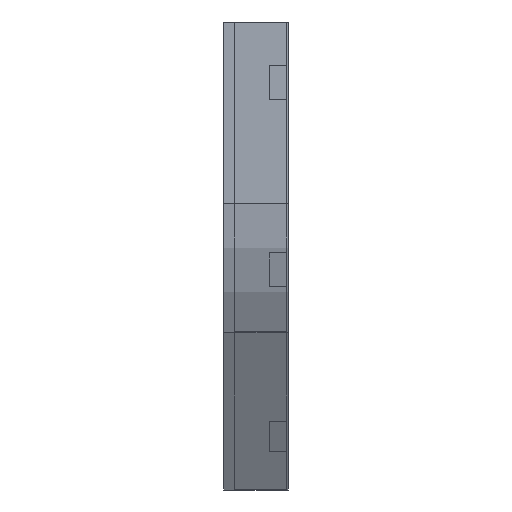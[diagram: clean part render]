
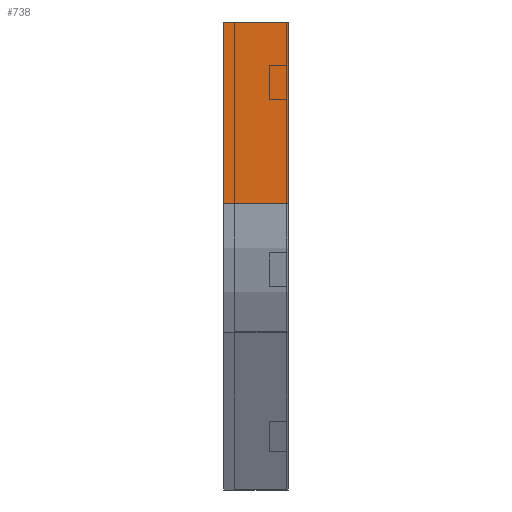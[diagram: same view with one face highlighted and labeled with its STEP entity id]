
A CAD part, left-side view. The second image highlights one B-rep face of the part: STEP entity #738.
In plain terms, the highlighted planar face has unit normal (-1, 0, 0).
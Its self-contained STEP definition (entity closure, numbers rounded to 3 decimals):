
#78 = CARTESIAN_POINT ( 'NONE',  ( 0., 0., -210.77 ) ) ;
#87 = DIRECTION ( 'NONE',  ( 0., -1., 0. ) ) ;
#88 = FACE_OUTER_BOUND ( 'NONE', #979, .T. ) ;
#222 = CARTESIAN_POINT ( 'NONE',  ( 0., 0., 0. ) ) ;
#264 = EDGE_CURVE ( 'NONE', #862, #1779, #1797, .T. ) ;
#320 = VECTOR ( 'NONE', #1637, 1000. ) ;
#364 = ORIENTED_EDGE ( 'NONE', *, *, #1297, .T. ) ;
#432 = VECTOR ( 'NONE', #1754, 1000. ) ;
#550 = VECTOR ( 'NONE', #1620, 1000. ) ;
#564 = ORIENTED_EDGE ( 'NONE', *, *, #264, .F. ) ;
#594 = EDGE_CURVE ( 'NONE', #862, #665, #1130, .T. ) ;
#652 = CARTESIAN_POINT ( 'NONE',  ( 0., 0., 0. ) ) ;
#665 = VERTEX_POINT ( 'NONE', #1646 ) ;
#706 = CARTESIAN_POINT ( 'NONE',  ( 0., 75., 0. ) ) ;
#738 = ADVANCED_FACE ( 'NONE', ( #88 ), #801, .F. ) ;
#800 = CARTESIAN_POINT ( 'NONE',  ( 0., 0., -210.77 ) ) ;
#801 = PLANE ( 'NONE',  #1308 ) ;
#839 = DIRECTION ( 'NONE',  ( 1., 0., 0. ) ) ;
#862 = VERTEX_POINT ( 'NONE', #1757 ) ;
#864 = VECTOR ( 'NONE', #87, 1000. ) ;
#979 = EDGE_LOOP ( 'NONE', ( #1312, #564, #1721, #364 ) ) ;
#1060 = LINE ( 'NONE', #222, #320 ) ;
#1130 = LINE ( 'NONE', #706, #432 ) ;
#1294 = EDGE_CURVE ( 'NONE', #1779, #1321, #1060, .T. ) ;
#1297 = EDGE_CURVE ( 'NONE', #665, #1321, #1805, .T. ) ;
#1308 = AXIS2_PLACEMENT_3D ( 'NONE', #652, #839, #1558 ) ;
#1312 = ORIENTED_EDGE ( 'NONE', *, *, #1294, .F. ) ;
#1321 = VERTEX_POINT ( 'NONE', #78 ) ;
#1558 = DIRECTION ( 'NONE',  ( 0., 0., -1. ) ) ;
#1620 = DIRECTION ( 'NONE',  ( 0., -1., 0. ) ) ;
#1637 = DIRECTION ( 'NONE',  ( 0., 0., -1. ) ) ;
#1646 = CARTESIAN_POINT ( 'NONE',  ( 0., 75., -210.77 ) ) ;
#1717 = CARTESIAN_POINT ( 'NONE',  ( 0., 0., 0. ) ) ;
#1721 = ORIENTED_EDGE ( 'NONE', *, *, #594, .T. ) ;
#1754 = DIRECTION ( 'NONE',  ( 0., 0., -1. ) ) ;
#1757 = CARTESIAN_POINT ( 'NONE',  ( 0., 75., 0. ) ) ;
#1764 = CARTESIAN_POINT ( 'NONE',  ( 0., 0., 0. ) ) ;
#1779 = VERTEX_POINT ( 'NONE', #1717 ) ;
#1797 = LINE ( 'NONE', #1764, #550 ) ;
#1805 = LINE ( 'NONE', #800, #864 ) ;
